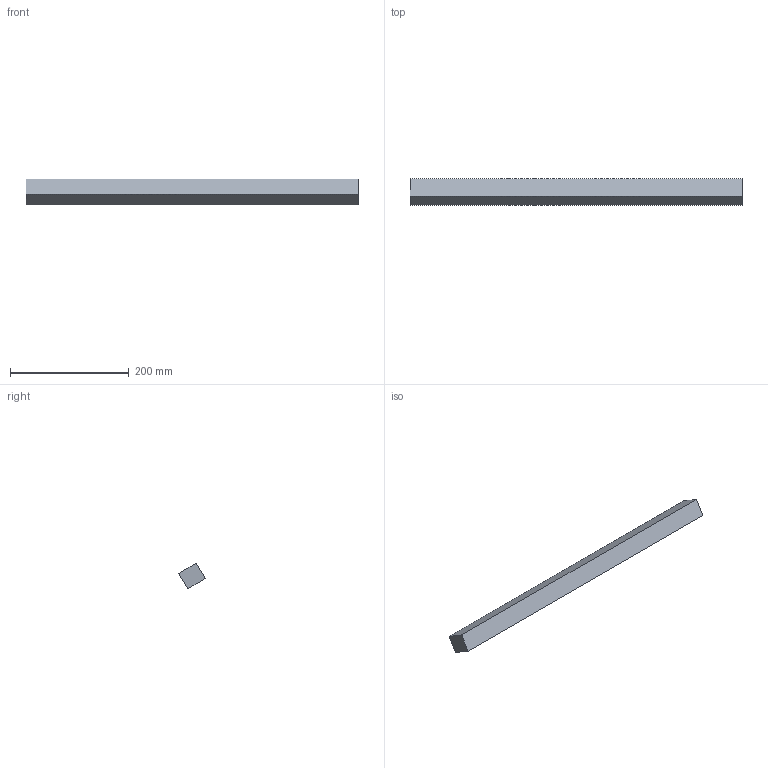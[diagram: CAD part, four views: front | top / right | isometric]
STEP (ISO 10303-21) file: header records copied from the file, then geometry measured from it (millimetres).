
FILE_DESCRIPTION(('Open CASCADE Model'),'2;1');
FILE_NAME('Open CASCADE Shape Model','2026-09-19T12:55:23',('Author'),( 'Open CASCADE'),'Open CASCADE STEP processor 7.9','Open CASCADE 7.9' ,'Unknown');
FILE_SCHEMA(('AUTOMOTIVE_DESIGN { 1 0 10303 214 1 1 1 1 }'));
Length unit declared in the file: millimetre
Products named in the file (1): Open CASCADE STEP translator 7.9 407
Bounding box: 560 x 45.47 x 43.77 mm (x, y, z)
Volume: 588000 mm3; surface area: 74900 mm2
Topology: 1 solids, 1 shells, 6 faces, 12 edges, 8 vertices
Faces by surface type: plane 6
Entity records: 322 total; most frequent: CARTESIAN_POINT 51, DIRECTION 50, LINE 36, VECTOR 36, ORIENTED_EDGE 24, PCURVE 24, DEFINITIONAL_REPRESENTATION 24, EDGE_CURVE 12
